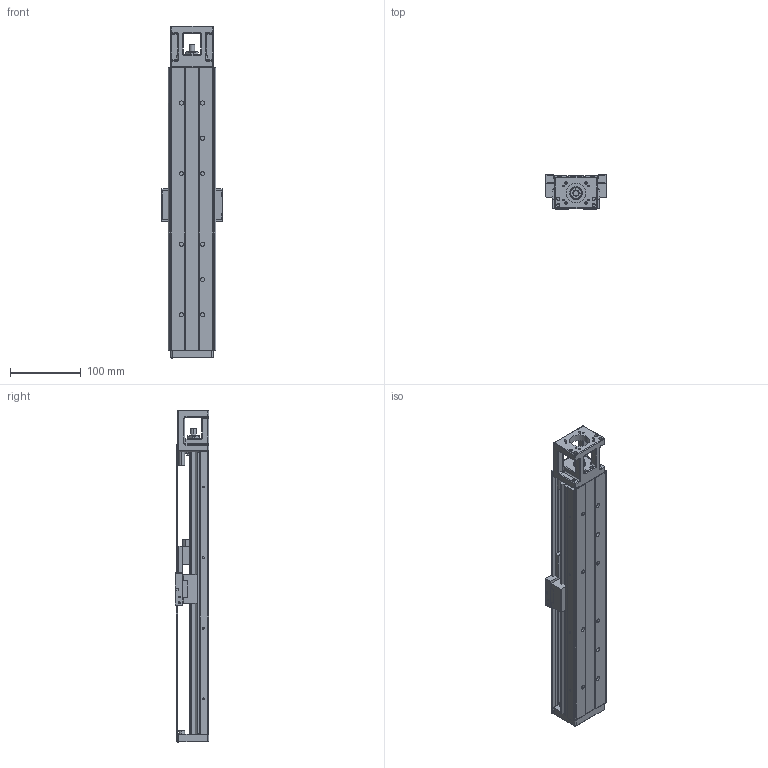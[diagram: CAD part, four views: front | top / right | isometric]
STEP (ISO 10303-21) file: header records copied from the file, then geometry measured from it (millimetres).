
FILE_DESCRIPTION (( 'STEP AP203' ), '1' );
FILE_NAME ('hkk60-400a1f0c.STEP', '2019-10-31T03:02:11', ( '微软用户' ), ( '微软中国' ), 'SwSTEP 2.0', 'SolidWorks 2016', '' );
FILE_SCHEMA (( 'CONFIG_CONTROL_DESIGN' ));
Length unit declared in the file: millimetre
Products named in the file (3): hkk60-300_6; hkk60賑怢_6; hkk60-400a1f0c
Assembly tree (2 placements, depth 2):
  hkk60-400a1f0c
    hkk60-300_6
    hkk60賑怢_6
Bounding box: 86 x 48 x 470 mm (x, y, z)
Volume: 686581.8 mm3; surface area: 239969.1 mm2
Topology: 41 solids, 49 shells, 1519 faces, 3911 edges, 2417 vertices
Faces by surface type: cylinder 556, plane 509, cone 221, bspline 85, sphere 76, torus 72
Entity records: 64455 total; most frequent: CARTESIAN_POINT 28771, ORIENTED_EDGE 7438, DIRECTION 7116, EDGE_CURVE 3719, AXIS2_PLACEMENT_3D 2631, VERTEX_POINT 2369, LINE 1854, VECTOR 1854
